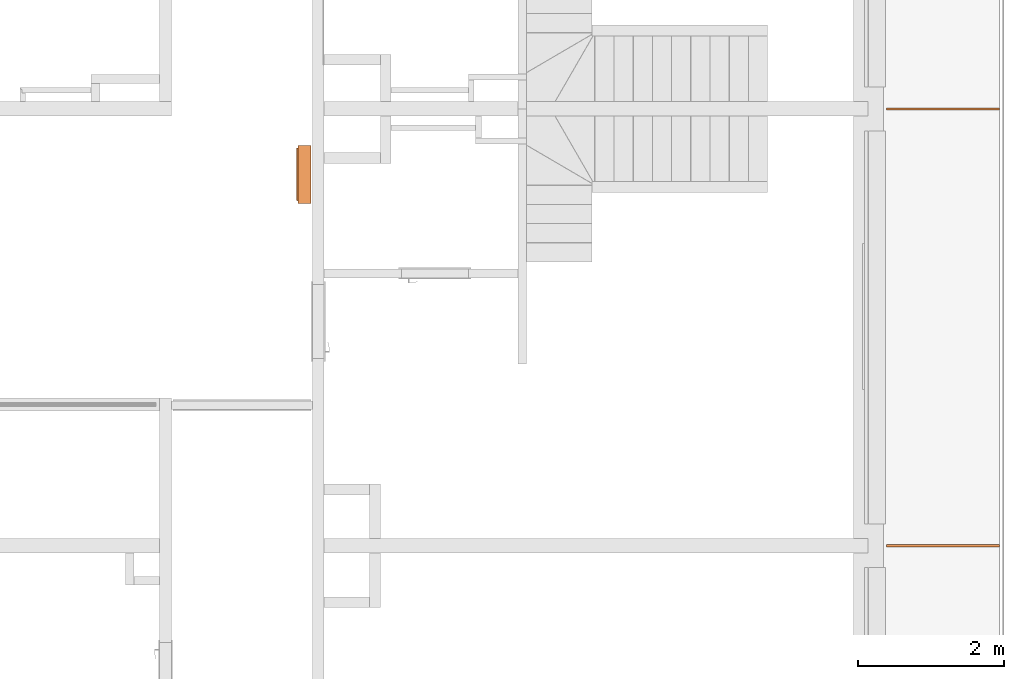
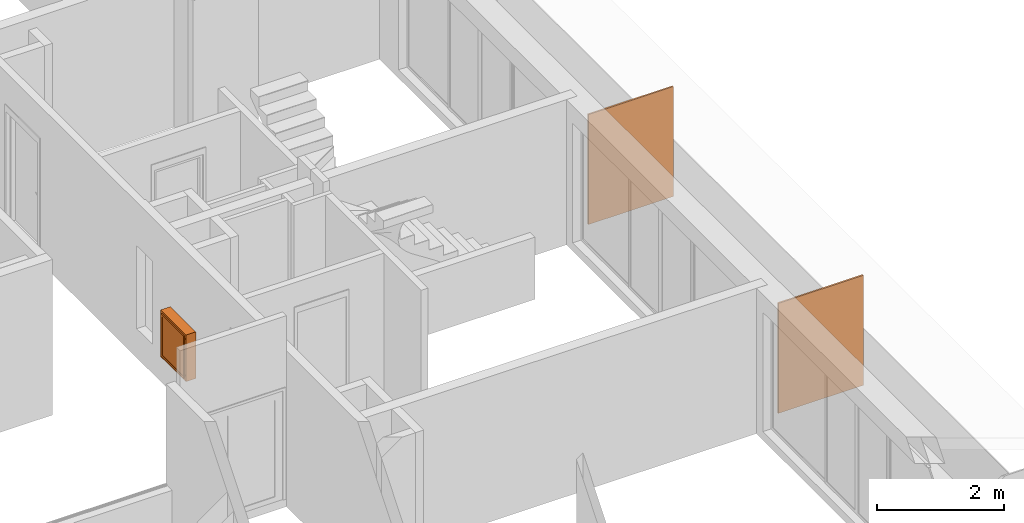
# One storey, part 34 of 61: 3 proxies.
"""IFC2X3 building model written with IfcOpenShell, lengths in millimetres."""

from ifc_helpers import new_model, entity, si_unit, converted_unit, derived_unit, money_unit, direction, frame, origin_with_axes, place, context, subcontext, project, spatial, polyline, outline, extrude, faceted_brep, source, transform, mapped, material, type_object, element, save


model = new_model("IFC2X3")

# Units and contexts
model_context = context("Model", 3, precision=0.01, world=origin_with_axes(), true_north=direction((0.34421633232, 0.938890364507)))
body_context = subcontext(model_context, "Body", "Model", "MODEL_VIEW")
ifc_project = project(units=[si_unit("LENGTHUNIT", "METRE", prefix="MILLI"), si_unit("AREAUNIT", "SQUARE_METRE"), si_unit("VOLUMEUNIT", "CUBIC_METRE"), converted_unit("PLANEANGLEUNIT", "DEGREE", entity("IfcPlaneAngleMeasure", 0.0174532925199), si_unit("PLANEANGLEUNIT", "RADIAN"), dimensions=[0, 0, 0, 0, 0, 0, 0]), si_unit("SOLIDANGLEUNIT", "STERADIAN"), money_unit("USD"), converted_unit("TIMEUNIT", "Year", entity("IfcTimeMeasure", 31556926.0), si_unit("TIMEUNIT", "SECOND"), dimensions=[0, 0, 1, 0, 0, 0, 0]), si_unit("MASSUNIT", "GRAM", prefix="KILO"), si_unit("THERMODYNAMICTEMPERATUREUNIT", "DEGREE_CELSIUS"), si_unit("LUMINOUSINTENSITYUNIT", "LUMEN"), si_unit("ENERGYUNIT", "JOULE", prefix="MEGA"), derived_unit("THERMALCONDUCTANCEUNIT", [(si_unit("POWERUNIT", "WATT"), 1), (si_unit("LENGTHUNIT", "METRE"), -1), (si_unit("THERMODYNAMICTEMPERATUREUNIT", "KELVIN"), -1)]), derived_unit("SPECIFICHEATCAPACITYUNIT", [(si_unit("ENERGYUNIT", "JOULE"), 1), (si_unit("MASSUNIT", "GRAM", prefix="KILO"), -1), (si_unit("THERMODYNAMICTEMPERATUREUNIT", "KELVIN"), -1)]), derived_unit("MASSDENSITYUNIT", [(si_unit("MASSUNIT", "GRAM", prefix="KILO"), 1), (si_unit("VOLUMEUNIT", "CUBIC_METRE"), -1)])], contexts=[model_context])

# Site, building, storey
site_placement = place(None, origin_with_axes())
site = spatial("IfcSite", under=ifc_project, at=site_placement, Name="USTRONIE MORSKIE", CompositionType="ELEMENT")
building_placement = place(site_placement, origin_with_axes())
building = spatial("IfcBuilding", under=site, at=building_placement, Name="Budynek", CompositionType="ELEMENT")
storey_placement = place(building_placement, frame((0.0, 0.0, 13000.0), z_axis=(0.0, 0.0, 1.0), x_axis=(1.0, 0.0, 0.0)))
storey = spatial("IfcBuildingStorey", under=building, at=storey_placement, Name="PIĘTRO 4", CompositionType="ELEMENT", Elevation=13000.0)

# Proxies
ifc_material = material(Name="Woda")
building_element_proxy_type_1 = type_object("IfcBuildingElementProxyType", Name="Woda 30", PredefinedType="NOTDEFINED")
proxy_1_placement = place(storey_placement, frame((425917.920919, 732801.199036, 20.0), z_axis=(0.0, 0.0, 1.0), x_axis=(0.999999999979, -6.40856598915e-06, 0.0)))
element("IfcBuildingElementProxy", 1, at=proxy_1_placement, inside=storey, type_object=building_element_proxy_type_1, material=ifc_material, Name="Œciana-007", context=body_context, shape_type="SweptSolid", body=[
    extrude(outline(polyline([(0.0, -14.9999999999), (1550.00000003, -14.9999999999), (1550.00000003, 15.0000000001), (0.0, 15.0000000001), (0.0, -14.9999999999)])), origin_with_axes(), (0.0, 0.0, 1.0), 2120.0),
])
proxy_2_placement = place(storey_placement, frame((425917.920919, 738801.199036, 20.0), z_axis=(0.0, 0.0, 1.0), x_axis=(0.999999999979, -6.40856598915e-06, 0.0)))
element("IfcBuildingElementProxy", 2, at=proxy_2_placement, inside=storey, type_object=building_element_proxy_type_1, material=ifc_material, Name="Œciana-007", context=body_context, shape_type="SweptSolid", body=[
    extrude(outline(polyline([(0.0, -15.0), (1550.00000003, -15.0), (1550.00000003, 15.0), (0.0, 15.0), (0.0, -15.0)])), origin_with_axes(), (0.0, 0.0, 1.0), 2120.0),
])
building_element_proxy_type_2 = type_object("IfcBuildingElementProxyType", Name="Skrzynka P-Poż 23", PredefinedType="NOTDEFINED")
shared_shape = source(origin_with_axes(), body_context, "Body", "Brep", [
    faceted_brep([(0.0, 40.0, 0.0), (0.0, 20.0, 0.0), (-800.0, 20.0, 0.0), (-800.0, 40.0, 0.0), (0.0, 40.0, 900.0), (0.0, 20.0, 900.0), (-800.0, 20.0, 900.0), (-60.0, 20.0, 60.0), (-740.0, 20.0, 60.0), (-740.0, 20.0, 840.0), (-60.0, 20.0, 840.0), (-800.0, 40.0, 900.0), (-60.0, 40.0, 60.0), (-60.0, 40.0, 840.0), (-740.0, 40.0, 840.0), (-740.0, 40.0, 60.0)], [[[0, 1, 2, 3]], [[4, 5, 1, 0]], [[1, 5, 6, 2], [7, 8, 9, 10]], [[3, 2, 6, 11]], [[0, 3, 11, 4], [12, 13, 14, 15]], [[11, 6, 5, 4]], [[15, 8, 7, 12]], [[14, 9, 8, 15]], [[13, 10, 9, 14]], [[12, 7, 10, 13]]]),
    faceted_brep([(-40.0, 20.0, 40.0), (-40.0, 0.0, 40.0), (-760.0, 0.0, 40.0), (-760.0, 20.0, 40.0), (-40.0, 20.0, 860.0), (-40.0, 0.0, 860.0), (-760.0, 0.0, 860.0), (-80.0, 0.0, 80.0), (-720.0, 0.0, 80.0), (-720.0, 0.0, 820.0), (-80.0, 0.0, 820.0), (-760.0, 20.0, 860.0), (-80.0, 20.0, 80.0), (-80.0, 20.0, 820.0), (-720.0, 20.0, 820.0), (-720.0, 20.0, 80.0)], [[[0, 1, 2, 3]], [[4, 5, 1, 0]], [[1, 5, 6, 2], [7, 8, 9, 10]], [[3, 2, 6, 11]], [[0, 3, 11, 4], [12, 13, 14, 15]], [[11, 6, 5, 4]], [[15, 8, 7, 12]], [[14, 9, 8, 15]], [[13, 10, 9, 14]], [[12, 7, 10, 13]]]),
    faceted_brep([(0.0, 180.0, 0.0), (0.0, 40.0, 0.0), (-800.0, 40.0, 0.0), (-800.0, 180.0, 0.0), (0.0, 180.0, 900.0), (0.0, 40.0, 900.0), (-800.0, 40.0, 900.0), (-20.0, 40.0, 20.0), (-780.0, 40.0, 20.0), (-780.0, 40.0, 880.0), (-20.0, 40.0, 880.0), (-800.0, 180.0, 900.0), (-20.0, 180.0, 20.0), (-20.0, 180.0, 880.0), (-780.0, 180.0, 880.0), (-780.0, 180.0, 20.0)], [[[0, 1, 2, 3]], [[4, 5, 1, 0]], [[1, 5, 6, 2], [7, 8, 9, 10]], [[3, 2, 6, 11]], [[0, 3, 11, 4], [12, 13, 14, 15]], [[11, 6, 5, 4]], [[15, 8, 7, 12]], [[14, 9, 8, 15]], [[13, 10, 9, 14]], [[12, 7, 10, 13]]]),
    faceted_brep([(0.0, 200.0, 0.0), (0.0, 180.0, 0.0), (-800.0, 180.0, 0.0), (-800.0, 200.0, 0.0), (0.0, 200.0, 900.0), (0.0, 180.0, 900.0), (-800.0, 180.0, 900.0), (-800.0, 200.0, 900.0)], [[[0, 1, 2, 3]], [[4, 5, 1, 0]], [[1, 5, 6, 2]], [[3, 2, 6, 7]], [[0, 3, 7, 4]], [[7, 6, 5, 4]]]),
    faceted_brep([(-80.0, 15.0, 80.0), (-80.0, 5.0, 80.0), (-720.0, 5.0, 80.0), (-720.0, 15.0, 80.0), (-80.0, 15.0, 820.0), (-80.0, 5.0, 820.0), (-720.0, 5.0, 820.0), (-720.0, 15.0, 820.0)], [[[0, 1, 2, 3]], [[4, 5, 1, 0]], [[1, 5, 6, 2]], [[3, 2, 6, 7]], [[0, 3, 7, 4]], [[7, 6, 5, 4]]]),
    faceted_brep([(-749.659258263, 0.0, 447.411809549), (-750.0, 0.0, 450.0), (-749.659258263, 0.0, 452.588190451), (-748.660254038, 0.0, 455.0), (-747.071067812, 0.0, 457.071067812), (-745.0, 0.0, 458.660254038), (-742.588190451, 0.0, 459.659258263), (-740.0, 0.0, 460.0), (-737.411809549, 0.0, 459.659258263), (-735.0, 0.0, 458.660254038), (-732.928932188, 0.0, 457.071067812), (-731.339745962, 0.0, 455.0), (-730.340741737, 0.0, 452.588190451), (-730.0, 0.0, 450.0), (-730.340741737, 0.0, 447.411809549), (-731.339745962, 0.0, 445.0), (-732.928932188, 0.0, 442.928932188), (-735.0, 0.0, 441.339745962), (-737.411809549, 0.0, 440.340741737), (-740.0, 0.0, 440.0), (-742.588190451, 0.0, 440.340741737), (-745.0, 0.0, 441.339745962), (-747.071067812, 0.0, 442.928932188), (-748.660254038, 0.0, 445.0), (-749.659258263, -2.0, 447.411809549), (-750.0, -2.0, 450.0), (-749.659258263, -2.0, 452.588190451), (-748.660254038, -2.0, 455.0), (-747.071067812, -2.0, 457.071067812), (-745.0, -2.0, 458.660254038), (-742.588190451, -2.0, 459.659258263), (-740.0, -2.0, 460.0), (-737.411809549, -2.0, 459.659258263), (-735.0, -2.0, 458.660254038), (-732.928932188, -2.0, 457.071067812), (-731.339745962, -2.0, 455.0), (-730.340741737, -2.0, 452.588190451), (-730.0, -2.0, 450.0), (-730.340741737, -2.0, 447.411809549), (-731.339745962, -2.0, 445.0), (-732.928932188, -2.0, 442.928932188), (-735.0, -2.0, 441.339745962), (-737.411809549, -2.0, 440.340741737), (-740.0, -2.0, 440.0), (-742.588190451, -2.0, 440.340741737), (-745.0, -2.0, 441.339745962), (-747.071067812, -2.0, 442.928932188), (-748.660254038, -2.0, 445.0)], [[[0, 1, 2, 3, 4, 5, 6, 7, 8, 9, 10, 11, 12, 13, 14, 15, 16, 17, 18, 19, 20, 21, 22, 23]], [[0, 24, 25, 1]], [[1, 25, 26, 2]], [[2, 26, 27, 3]], [[3, 27, 28, 4]], [[4, 28, 29, 5]], [[5, 29, 30, 6]], [[6, 30, 31, 7]], [[7, 31, 32, 8]], [[8, 32, 33, 9]], [[9, 33, 34, 10]], [[10, 34, 35, 11]], [[11, 35, 36, 12]], [[12, 36, 37, 13]], [[13, 37, 38, 14]], [[14, 38, 39, 15]], [[15, 39, 40, 16]], [[16, 40, 41, 17]], [[17, 41, 42, 18]], [[18, 42, 43, 19]], [[19, 43, 44, 20]], [[20, 44, 45, 21]], [[21, 45, 46, 22]], [[22, 46, 47, 23]], [[23, 47, 24, 0]], [[24, 47, 46, 45, 44, 43, 42, 41, 40, 39, 38, 37, 36, 35, 34, 33, 32, 31, 30, 29, 28, 27, 26, 25]]]),
    faceted_brep([(-39.8977774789, 16.2235428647, 80.0), (-40.0, 17.0, 80.0), (-39.8977774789, 17.7764571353, 80.0), (-39.5980762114, 18.5, 80.0), (-39.1213203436, 19.1213203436, 80.0), (-38.5, 19.5980762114, 80.0), (-37.7764571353, 19.8977774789, 80.0), (-37.0, 20.0, 80.0), (-36.2235428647, 19.8977774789, 80.0), (-35.5, 19.5980762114, 80.0), (-34.8786796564, 19.1213203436, 80.0), (-34.4019237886, 18.5, 80.0), (-34.1022225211, 17.7764571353, 80.0), (-34.0, 17.0, 80.0), (-34.1022225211, 16.2235428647, 80.0), (-34.4019237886, 15.5, 80.0), (-34.8786796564, 14.8786796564, 80.0), (-35.5, 14.4019237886, 80.0), (-36.2235428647, 14.1022225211, 80.0), (-37.0, 14.0, 80.0), (-37.7764571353, 14.1022225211, 80.0), (-38.5, 14.4019237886, 80.0), (-39.1213203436, 14.8786796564, 80.0), (-39.5980762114, 15.5, 80.0), (-39.8977774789, 16.2235428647, 120.0), (-40.0, 17.0, 120.0), (-39.8977774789, 17.7764571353, 120.0), (-39.5980762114, 18.5, 120.0), (-39.1213203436, 19.1213203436, 120.0), (-38.5, 19.5980762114, 120.0), (-37.7764571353, 19.8977774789, 120.0), (-37.0, 20.0, 120.0), (-36.2235428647, 19.8977774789, 120.0), (-35.5, 19.5980762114, 120.0), (-34.8786796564, 19.1213203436, 120.0), (-34.4019237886, 18.5, 120.0), (-34.1022225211, 17.7764571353, 120.0), (-34.0, 17.0, 120.0), (-34.1022225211, 16.2235428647, 120.0), (-34.4019237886, 15.5, 120.0), (-34.8786796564, 14.8786796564, 120.0), (-35.5, 14.4019237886, 120.0), (-36.2235428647, 14.1022225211, 120.0), (-37.0, 14.0, 120.0), (-37.7764571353, 14.1022225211, 120.0), (-38.5, 14.4019237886, 120.0), (-39.1213203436, 14.8786796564, 120.0), (-39.5980762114, 15.5, 120.0)], [[[0, 1, 2, 3, 4, 5, 6, 7, 8, 9, 10, 11, 12, 13, 14, 15, 16, 17, 18, 19, 20, 21, 22, 23]], [[0, 24, 25, 1]], [[1, 25, 26, 2]], [[2, 26, 27, 3]], [[3, 27, 28, 4]], [[4, 28, 29, 5]], [[5, 29, 30, 6]], [[6, 30, 31, 7]], [[7, 31, 32, 8]], [[8, 32, 33, 9]], [[9, 33, 34, 10]], [[10, 34, 35, 11]], [[11, 35, 36, 12]], [[12, 36, 37, 13]], [[13, 37, 38, 14]], [[14, 38, 39, 15]], [[15, 39, 40, 16]], [[16, 40, 41, 17]], [[17, 41, 42, 18]], [[18, 42, 43, 19]], [[19, 43, 44, 20]], [[20, 44, 45, 21]], [[21, 45, 46, 22]], [[22, 46, 47, 23]], [[23, 47, 24, 0]], [[24, 47, 46, 45, 44, 43, 42, 41, 40, 39, 38, 37, 36, 35, 34, 33, 32, 31, 30, 29, 28, 27, 26, 25]]]),
    faceted_brep([(-39.8977774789, 16.2235428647, 780.0), (-40.0, 17.0, 780.0), (-39.8977774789, 17.7764571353, 780.0), (-39.5980762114, 18.5, 780.0), (-39.1213203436, 19.1213203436, 780.0), (-38.5, 19.5980762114, 780.0), (-37.7764571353, 19.8977774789, 780.0), (-37.0, 20.0, 780.0), (-36.2235428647, 19.8977774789, 780.0), (-35.5, 19.5980762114, 780.0), (-34.8786796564, 19.1213203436, 780.0), (-34.4019237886, 18.5, 780.0), (-34.1022225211, 17.7764571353, 780.0), (-34.0, 17.0, 780.0), (-34.1022225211, 16.2235428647, 780.0), (-34.4019237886, 15.5, 780.0), (-34.8786796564, 14.8786796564, 780.0), (-35.5, 14.4019237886, 780.0), (-36.2235428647, 14.1022225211, 780.0), (-37.0, 14.0, 780.0), (-37.7764571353, 14.1022225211, 780.0), (-38.5, 14.4019237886, 780.0), (-39.1213203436, 14.8786796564, 780.0), (-39.5980762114, 15.5, 780.0), (-39.8977774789, 16.2235428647, 820.0), (-40.0, 17.0, 820.0), (-39.8977774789, 17.7764571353, 820.0), (-39.5980762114, 18.5, 820.0), (-39.1213203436, 19.1213203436, 820.0), (-38.5, 19.5980762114, 820.0), (-37.7764571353, 19.8977774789, 820.0), (-37.0, 20.0, 820.0), (-36.2235428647, 19.8977774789, 820.0), (-35.5, 19.5980762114, 820.0), (-34.8786796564, 19.1213203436, 820.0), (-34.4019237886, 18.5, 820.0), (-34.1022225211, 17.7764571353, 820.0), (-34.0, 17.0, 820.0), (-34.1022225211, 16.2235428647, 820.0), (-34.4019237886, 15.5, 820.0), (-34.8786796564, 14.8786796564, 820.0), (-35.5, 14.4019237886, 820.0), (-36.2235428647, 14.1022225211, 820.0), (-37.0, 14.0, 820.0), (-37.7764571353, 14.1022225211, 820.0), (-38.5, 14.4019237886, 820.0), (-39.1213203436, 14.8786796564, 820.0), (-39.5980762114, 15.5, 820.0)], [[[0, 1, 2, 3, 4, 5, 6, 7, 8, 9, 10, 11, 12, 13, 14, 15, 16, 17, 18, 19, 20, 21, 22, 23]], [[0, 24, 25, 1]], [[1, 25, 26, 2]], [[2, 26, 27, 3]], [[3, 27, 28, 4]], [[4, 28, 29, 5]], [[5, 29, 30, 6]], [[6, 30, 31, 7]], [[7, 31, 32, 8]], [[8, 32, 33, 9]], [[9, 33, 34, 10]], [[10, 34, 35, 11]], [[11, 35, 36, 12]], [[12, 36, 37, 13]], [[13, 37, 38, 14]], [[14, 38, 39, 15]], [[15, 39, 40, 16]], [[16, 40, 41, 17]], [[17, 41, 42, 18]], [[18, 42, 43, 19]], [[19, 43, 44, 20]], [[20, 44, 45, 21]], [[21, 45, 46, 22]], [[22, 46, 47, 23]], [[23, 47, 24, 0]], [[24, 47, 46, 45, 44, 43, 42, 41, 40, 39, 38, 37, 36, 35, 34, 33, 32, 31, 30, 29, 28, 27, 26, 25]]]),
])
proxy_3_placement = place(storey_placement, frame((417817.920919, 737501.1917, 600.0), z_axis=(0.0, 0.0, 1.0), x_axis=(0.0, -1.0, 0.0)))
element("IfcBuildingElementProxy", 3, at=proxy_3_placement, inside=storey, type_object=building_element_proxy_type_2, Name="OB3", context=body_context, shape_type="MappedRepresentation", body=[
    mapped(shared_shape, transform((0.0, 0.0, 0.0))),
])

save(model, "model.ifc")
